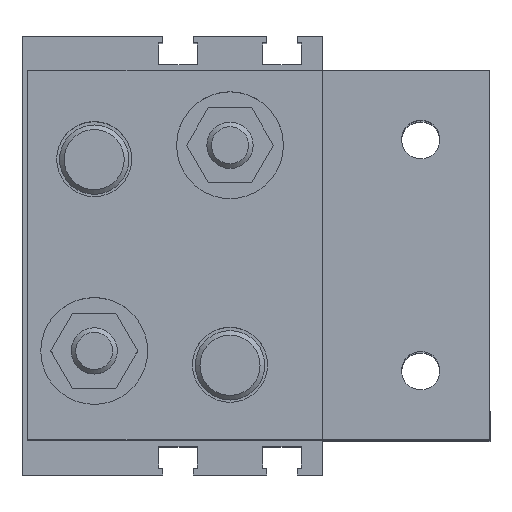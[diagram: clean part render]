
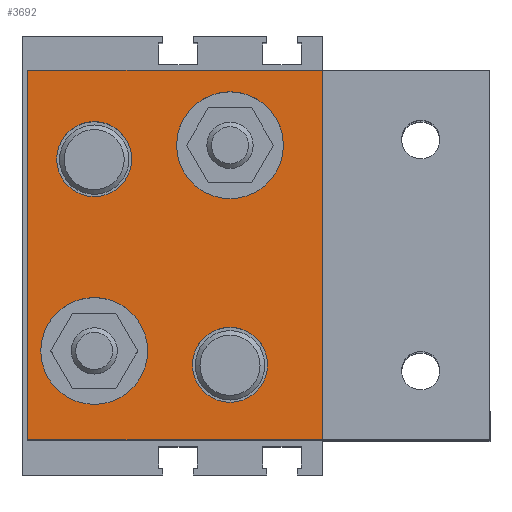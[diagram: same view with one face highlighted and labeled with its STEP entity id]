
A CAD part, top view. The second image highlights one B-rep face of the part: STEP entity #3692.
In plain terms, the highlighted planar face has unit normal (0, 0, 1) as drawn and (-1, 0, 0) by its records, which use the part's own axes.
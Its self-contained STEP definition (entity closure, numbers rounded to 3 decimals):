
#3292=CARTESIAN_POINT('',(-10.5,68.5,24.65));
#3293=VERTEX_POINT('',#3292);
#3294=CARTESIAN_POINT('',(-10.5,68.5,15.4));
#3295=DIRECTION('',(1.0,0.0,0.0));
#3296=DIRECTION('',(0.0,0.0,1.0));
#3297=AXIS2_PLACEMENT_3D('',#3294,#3295,#3296);
#3298=CIRCLE('',#3297,9.25);
#3299=EDGE_CURVE('',#3293,#3293,#3298,.T.);
#3358=CARTESIAN_POINT('',(-10.5,45.,60.25));
#3359=VERTEX_POINT('',#3358);
#3360=CARTESIAN_POINT('',(-10.5,45.,51.));
#3361=DIRECTION('',(1.0,0.0,0.0));
#3362=DIRECTION('',(0.0,0.0,1.0));
#3363=AXIS2_PLACEMENT_3D('',#3360,#3361,#3362);
#3364=CIRCLE('',#3363,9.25);
#3365=EDGE_CURVE('',#3359,#3359,#3364,.T.);
#3410=CARTESIAN_POINT('',(-10.5,68.5,55.1));
#3411=VERTEX_POINT('',#3410);
#3412=CARTESIAN_POINT('',(-10.5,68.5,48.6));
#3413=DIRECTION('',(1.0,0.0,0.0));
#3414=DIRECTION('',(0.0,0.0,1.0));
#3415=AXIS2_PLACEMENT_3D('',#3412,#3413,#3414);
#3416=CIRCLE('',#3415,6.5);
#3417=EDGE_CURVE('',#3411,#3411,#3416,.T.);
#3459=CARTESIAN_POINT('',(-10.5,45.0,19.5));
#3460=VERTEX_POINT('',#3459);
#3461=CARTESIAN_POINT('',(-10.5,45.0,13.));
#3462=DIRECTION('',(1.0,0.0,0.0));
#3463=DIRECTION('',(0.0,0.0,1.0));
#3464=AXIS2_PLACEMENT_3D('',#3461,#3462,#3463);
#3465=CIRCLE('',#3464,6.5);
#3466=EDGE_CURVE('',#3460,#3460,#3465,.T.);
#3476=CARTESIAN_POINT('',(-10.5,80.0,64.0));
#3477=VERTEX_POINT('',#3476);
#3494=CARTESIAN_POINT('',(-10.5,80.0,0.0));
#3495=VERTEX_POINT('',#3494);
#3502=CARTESIAN_POINT('',(-10.5,80.0,0.0));
#3503=DIRECTION('',(0.0,0.0,1.0));
#3504=VECTOR('',#3503,64.0);
#3505=LINE('',#3502,#3504);
#3506=EDGE_CURVE('',#3495,#3477,#3505,.T.);
#3633=CARTESIAN_POINT('',(-10.5,29.,64.0));
#3634=VERTEX_POINT('',#3633);
#3641=CARTESIAN_POINT('',(-10.5,29.,0.0));
#3642=VERTEX_POINT('',#3641);
#3643=CARTESIAN_POINT('',(-10.5,29.,0.0));
#3644=DIRECTION('',(0.0,0.0,1.0));
#3645=VECTOR('',#3644,64.0);
#3646=LINE('',#3643,#3645);
#3647=EDGE_CURVE('',#3642,#3634,#3646,.T.);
#3659=CARTESIAN_POINT('',(-10.5,29.,0.0));
#3660=DIRECTION('',(-1.0,0.0,0.0));
#3661=DIRECTION('',(0.0,0.0,1.0));
#3662=AXIS2_PLACEMENT_3D('',#3659,#3660,#3661);
#3663=PLANE('',#3662);
#3664=CARTESIAN_POINT('',(-10.5,29.,64.0));
#3665=DIRECTION('',(0.0,1.0,0.0));
#3666=VECTOR('',#3665,51.0);
#3667=LINE('',#3664,#3666);
#3668=EDGE_CURVE('',#3634,#3477,#3667,.T.);
#3669=ORIENTED_EDGE('',*,*,#3668,.T.);
#3670=ORIENTED_EDGE('',*,*,#3506,.F.);
#3671=CARTESIAN_POINT('',(-10.5,80.0,0.0));
#3672=DIRECTION('',(0.0,-1.0,0.0));
#3673=VECTOR('',#3672,51.0);
#3674=LINE('',#3671,#3673);
#3675=EDGE_CURVE('',#3495,#3642,#3674,.T.);
#3676=ORIENTED_EDGE('',*,*,#3675,.T.);
#3677=ORIENTED_EDGE('',*,*,#3647,.T.);
#3678=EDGE_LOOP('',(#3669,#3670,#3676,#3677));
#3679=FACE_OUTER_BOUND('',#3678,.T.);
#3680=ORIENTED_EDGE('',*,*,#3299,.T.);
#3681=EDGE_LOOP('',(#3680));
#3682=FACE_BOUND('',#3681,.T.);
#3683=ORIENTED_EDGE('',*,*,#3365,.T.);
#3684=EDGE_LOOP('',(#3683));
#3685=FACE_BOUND('',#3684,.T.);
#3686=ORIENTED_EDGE('',*,*,#3417,.T.);
#3687=EDGE_LOOP('',(#3686));
#3688=FACE_BOUND('',#3687,.T.);
#3689=ORIENTED_EDGE('',*,*,#3466,.T.);
#3690=EDGE_LOOP('',(#3689));
#3691=FACE_BOUND('',#3690,.T.);
#3692=ADVANCED_FACE('',(#3679,#3682,#3685,#3688,#3691),#3663,.T.);
